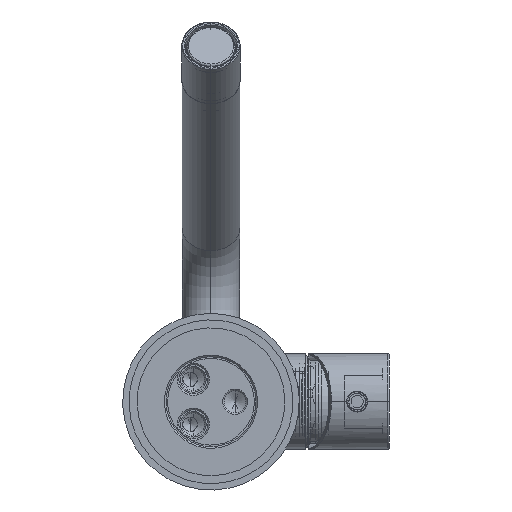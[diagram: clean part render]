
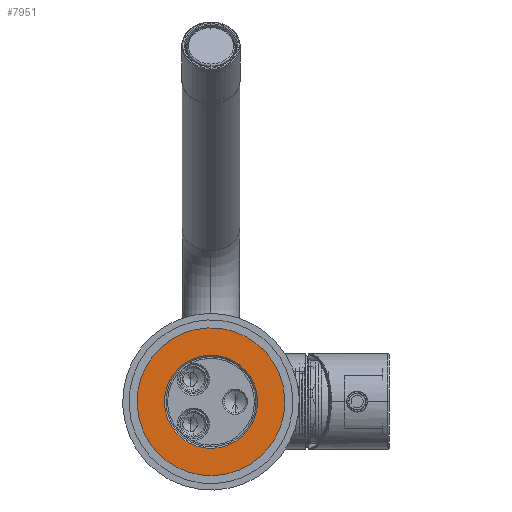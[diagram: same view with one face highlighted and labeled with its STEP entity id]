
A CAD part, front view. The second image highlights one B-rep face of the part: STEP entity #7951.
In plain terms, the highlighted planar face has unit normal (0, -1, 0).
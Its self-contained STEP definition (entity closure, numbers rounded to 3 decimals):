
#488 = CIRCLE ( 'NONE', #17513, 14.5 ) ;
#615 = CARTESIAN_POINT ( 'NONE',  ( 0., 0., 23. ) ) ;
#2564 = DIRECTION ( 'NONE',  ( 0., 1., 0. ) ) ;
#2864 = VERTEX_POINT ( 'NONE', #16785 ) ;
#4935 = EDGE_LOOP ( 'NONE', ( #39350, #25251 ) ) ;
#5702 = DIRECTION ( 'NONE',  ( 0., 0., -1. ) ) ;
#5773 = FACE_BOUND ( 'NONE', #9255, .T. ) ;
#5985 = PLANE ( 'NONE',  #6650 ) ;
#6044 = EDGE_CURVE ( 'NONE', #27974, #10195, #25341, .T. ) ;
#6650 = AXIS2_PLACEMENT_3D ( 'NONE', #25209, #2564, #37826 ) ;
#7281 = AXIS2_PLACEMENT_3D ( 'NONE', #15224, #9223, #38509 ) ;
#7502 = EDGE_CURVE ( 'NONE', #10195, #27974, #18868, .T. ) ;
#7951 = ADVANCED_FACE ( 'NONE', ( #5773, #34845 ), #5985, .F. ) ;
#9223 = DIRECTION ( 'NONE',  ( 0., -1., 0. ) ) ;
#9255 = EDGE_LOOP ( 'NONE', ( #15219, #22258 ) ) ;
#9506 = CARTESIAN_POINT ( 'NONE',  ( 0., 0., 0. ) ) ;
#10195 = VERTEX_POINT ( 'NONE', #17965 ) ;
#12785 = CARTESIAN_POINT ( 'NONE',  ( 0., 0., -14.5 ) ) ;
#15123 = AXIS2_PLACEMENT_3D ( 'NONE', #21932, #18294, #5702 ) ;
#15219 = ORIENTED_EDGE ( 'NONE', *, *, #25770, .T. ) ;
#15224 = CARTESIAN_POINT ( 'NONE',  ( 0., 0., 0. ) ) ;
#16785 = CARTESIAN_POINT ( 'NONE',  ( 0., 0., 14.5 ) ) ;
#17411 = CARTESIAN_POINT ( 'NONE',  ( 0., 0., 0. ) ) ;
#17513 = AXIS2_PLACEMENT_3D ( 'NONE', #17411, #36867, #20000 ) ;
#17965 = CARTESIAN_POINT ( 'NONE',  ( 0., 0., -23. ) ) ;
#18294 = DIRECTION ( 'NONE',  ( 0., -1., 0. ) ) ;
#18868 = CIRCLE ( 'NONE', #7281, 23. ) ;
#20000 = DIRECTION ( 'NONE',  ( 0., 0., 1. ) ) ;
#20185 = DIRECTION ( 'NONE',  ( 0., 0., 1. ) ) ;
#21025 = EDGE_CURVE ( 'NONE', #2864, #31616, #35787, .T. ) ;
#21932 = CARTESIAN_POINT ( 'NONE',  ( 0., 0., 0. ) ) ;
#22258 = ORIENTED_EDGE ( 'NONE', *, *, #21025, .T. ) ;
#25209 = CARTESIAN_POINT ( 'NONE',  ( -14., 0., 0. ) ) ;
#25251 = ORIENTED_EDGE ( 'NONE', *, *, #6044, .T. ) ;
#25341 = CIRCLE ( 'NONE', #15123, 23. ) ;
#25770 = EDGE_CURVE ( 'NONE', #31616, #2864, #488, .T. ) ;
#27974 = VERTEX_POINT ( 'NONE', #615 ) ;
#31616 = VERTEX_POINT ( 'NONE', #12785 ) ;
#33034 = DIRECTION ( 'NONE',  ( 0., 1., 0. ) ) ;
#34845 = FACE_OUTER_BOUND ( 'NONE', #4935, .T. ) ;
#35787 = CIRCLE ( 'NONE', #38524, 14.5 ) ;
#36867 = DIRECTION ( 'NONE',  ( 0., 1., 0. ) ) ;
#37826 = DIRECTION ( 'NONE',  ( 0., 0., 1. ) ) ;
#38509 = DIRECTION ( 'NONE',  ( 0., 0., -1. ) ) ;
#38524 = AXIS2_PLACEMENT_3D ( 'NONE', #9506, #33034, #20185 ) ;
#39350 = ORIENTED_EDGE ( 'NONE', *, *, #7502, .T. ) ;
